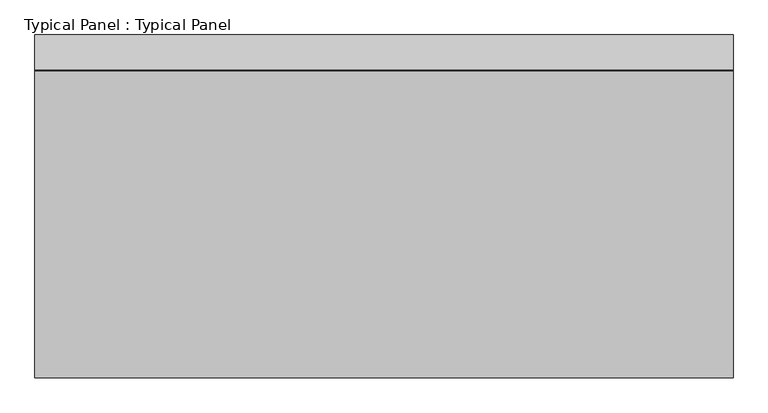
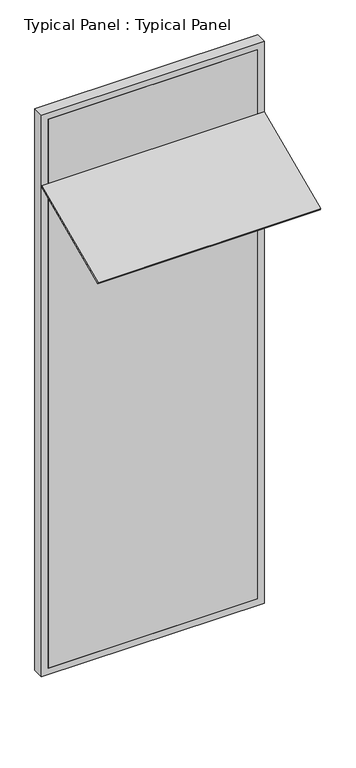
"""IFC4 building model written with IfcOpenShell, lengths in millimetres: plate geometry, Typical Panel : Typical Panel."""

import ifcopenshell
import ifcopenshell.guid

model = None  # the IFC model being written
_history = None  # IfcOwnerHistory: only IFC2X3 demands one
_inside = {}  # id of a spatial element -> (the spatial element, [elements in it])
_under = {}  # id of a project, library or spatial element -> (it, [spatial elements below it])
_declared = {}  # id of a project -> (the project, [libraries it declares])
_typed = {}  # id of a type object -> (the type object, [elements of that type])
_made_of = {}  # id of a material, layer set ... -> (it, [elements and type objects made of it])


def new_model(schema):
    """Start an empty IFC model of exactly this schema.

    Asked for "IFC4X3", IfcOpenShell would pick the latest addendum, in which some entities
    have other attributes; the version numbers below select the first issue.
    IFC2X3 requires an IfcOwnerHistory on every rooted entity: one is made here for all.
    """
    global model, _history
    if schema == "IFC4X3":
        model = ifcopenshell.file(schema_version=(4, 3, 0, 0))
    else:
        model = ifcopenshell.file(schema=schema)
    _inside.clear()
    _under.clear()
    _declared.clear()
    _typed.clear()
    _made_of.clear()
    _history = None
    if model.schema == "IFC2X3":
        org = make("IfcOrganization", Name="unknown")
        user = make(
            "IfcPersonAndOrganization",
            ThePerson=make("IfcPerson", FamilyName="unknown"),
            TheOrganization=org,
        )
        app = make(
            "IfcApplication",
            ApplicationDeveloper=org,
            Version="unknown",
            ApplicationFullName="unknown",
            ApplicationIdentifier="unknown",
        )
        _history = make(
            "IfcOwnerHistory",
            OwningUser=user,
            OwningApplication=app,
            ChangeAction="ADDED",
            CreationDate=0,
        )
    return model


def make(cls, **values):
    """One entity of the class cls with the attributes given. An attribute that is None is left unset."""
    return model.create_entity(
        cls, **{name: value for name, value in values.items() if value is not None}
    )


def rooted(cls, **values):
    """An entity with a GlobalId (a new one), such as an element, a storey or a relation."""
    return make(cls, GlobalId=ifcopenshell.guid.new(), OwnerHistory=_history, **values)


def si_unit(unit_type, name, prefix=None):
    """IfcSIUnit, for example si_unit("LENGTHUNIT", "METRE", prefix="MILLI")."""
    return make("IfcSIUnit", UnitType=unit_type, Prefix=prefix, Name=name)


def assignment(units):
    """IfcUnitAssignment: the units of a project."""
    return None if units is None else make("IfcUnitAssignment", Units=units)


def point(xyz):
    """IfcCartesianPoint."""
    return None if xyz is None else make("IfcCartesianPoint", Coordinates=xyz)


def direction(xyz):
    """IfcDirection."""
    return None if xyz is None else make("IfcDirection", DirectionRatios=xyz)


def frame(location, z_axis=None, x_axis=None):
    """IfcAxis2Placement3D, a coordinate frame: its origin and axes. An axis left out is left unset."""
    return make(
        "IfcAxis2Placement3D",
        Location=point(location),
        Axis=direction(z_axis),
        RefDirection=direction(x_axis),
    )


def origin():
    """The frame at (0, 0, 0) with its axes left unset."""
    return frame((0.0, 0.0, 0.0))


def place(relative_to, where):
    """IfcLocalPlacement: puts the frame where relative to a parent placement (None: the world)."""
    return make(
        "IfcLocalPlacement", PlacementRelTo=relative_to, RelativePlacement=where
    )


def context(
    kind, dimensions, precision=None, world=None, true_north=None, identifier=None
):
    """IfcGeometricRepresentationContext, for example the 3D "Model" context."""
    return make(
        "IfcGeometricRepresentationContext",
        ContextIdentifier=identifier,
        ContextType=kind,
        CoordinateSpaceDimension=dimensions,
        Precision=precision,
        WorldCoordinateSystem=world,
        TrueNorth=true_north,
    )


def project(units=None, contexts=None):
    """IfcProject with its units and contexts."""
    return rooted(
        "IfcProject",
        Name="project",
        RepresentationContexts=contexts,
        UnitsInContext=assignment(units),
    )


def spatial(cls, under=None, at=None, **own):
    """A site, building, storey or space (cls), placed at a placement, below another one or the project."""
    s = rooted(cls, ObjectPlacement=at, **own)
    if under is not None:
        _under.setdefault(under.id(), (under, []))[1].append(s)
    return s


def polyline(points):
    """IfcPolyline through the points."""
    return make("IfcPolyline", Points=[point(p) for p in points])


def outline(outer, holes=None, kind="AREA"):
    """IfcArbitraryClosedProfileDef: a profile drawn as a closed curve; with holes, ...WithVoids."""
    if holes is None:
        return make("IfcArbitraryClosedProfileDef", ProfileType=kind, OuterCurve=outer)
    return make(
        "IfcArbitraryProfileDefWithVoids",
        ProfileType=kind,
        OuterCurve=outer,
        InnerCurves=holes,
    )


def extrude(swept, where, along, depth):
    """IfcExtrudedAreaSolid: the profile swept, set in the frame where, extruded along a direction by depth."""
    return make(
        "IfcExtrudedAreaSolid",
        SweptArea=swept,
        Position=where,
        ExtrudedDirection=direction(along),
        Depth=depth,
    )


def shape(context_of_items, identifier, shape_type, items):
    """IfcShapeRepresentation: the items that make up one representation, for example the "Body"."""
    return make(
        "IfcShapeRepresentation",
        ContextOfItems=context_of_items,
        RepresentationIdentifier=identifier,
        RepresentationType=shape_type,
        Items=items,
    )


def source(mapping_origin, context_of_items, identifier, shape_type, items):
    """IfcRepresentationMap: a shape defined once, which mapped items show again and again."""
    return make(
        "IfcRepresentationMap",
        MappingOrigin=mapping_origin,
        MappedRepresentation=shape(context_of_items, identifier, shape_type, items),
    )


def transform(
    local_origin,
    x_axis=None,
    y_axis=None,
    z_axis=None,
    scale=None,
    scale2=None,
    scale3=None,
    uniform=True,
):
    """IfcCartesianTransformationOperator3D, or its non-uniform kind. x_axis, y_axis, z_axis: its Axis1, 2, 3."""
    if uniform:
        return make(
            "IfcCartesianTransformationOperator3D",
            Axis1=direction(x_axis),
            Axis2=direction(y_axis),
            LocalOrigin=point(local_origin),
            Scale=scale,
            Axis3=direction(z_axis),
        )
    return make(
        "IfcCartesianTransformationOperator3DnonUniform",
        Axis1=direction(x_axis),
        Axis2=direction(y_axis),
        LocalOrigin=point(local_origin),
        Scale=scale,
        Axis3=direction(z_axis),
        Scale2=scale2,
        Scale3=scale3,
    )


def mapped(mapping_source, mapping_target):
    """IfcMappedItem: shows the shape of a source again, moved by a transform."""
    return make(
        "IfcMappedItem", MappingSource=mapping_source, MappingTarget=mapping_target
    )


def made_of(thing, what):
    """Note that an element or type object is made of a material, layer set ...; save() writes the relation."""
    if what is not None:
        _made_of.setdefault(what.id(), (what, []))[1].append(thing)
    return thing


def element(
    cls,
    number,
    at=None,
    inside=None,
    cuts=None,
    type_object=None,
    material=None,
    context=None,
    identifier="Body",
    shape_type=None,
    held_by="IfcProductDefinitionShape",
    body=None,
    shapes=None,
    **own,
):
    """One element of the class cls, such as IfcWall. Its Tag is "e" and its number.

    at: its placement. inside: the storey or other place that contains it. cuts: it is an
    opening in that element (IfcRelVoidsElement). A single representation is given by context,
    identifier, shape_type and body (its items); several are given by shapes. held_by: the class
    of the entity that holds the representations. save() writes the other relations.
    """
    e = rooted(cls, Tag="e%d" % number, ObjectPlacement=at, **own)
    if body is not None:
        shapes = [shape(context, identifier, shape_type, body)]
    if shapes is not None:
        e.Representation = make(held_by, Representations=shapes)
    if inside is not None:
        _inside.setdefault(inside.id(), (inside, []))[1].append(e)
    if cuts is not None:
        rooted(
            "IfcRelVoidsElement", RelatingBuildingElement=cuts, RelatedOpeningElement=e
        )
    if type_object is not None:
        _typed.setdefault(type_object.id(), (type_object, []))[1].append(e)
    return made_of(e, material)


def aggregate(whole, parts):
    """IfcRelAggregates: a whole, such as a stair, and the parts it consists of."""
    return rooted("IfcRelAggregates", RelatingObject=whole, RelatedObjects=parts)


def save(model, path):
    """Write the relations noted so far, then the file.

    IfcRelAggregates (storeys below a building ...), IfcRelContainedInSpatialStructure (elements
    in a storey), IfcRelDefinesByType, IfcRelAssociatesMaterial and IfcRelDeclares: one each for
    every whole, place, type object, material and project.
    """
    for whole, parts in _under.values():
        aggregate(whole, parts)
    for where, things in _inside.values():
        rooted(
            "IfcRelContainedInSpatialStructure",
            RelatedElements=things,
            RelatingStructure=where,
        )
    for kind, things in _typed.values():
        rooted("IfcRelDefinesByType", RelatedObjects=things, RelatingType=kind)
    for what, things in _made_of.values():
        rooted("IfcRelAssociatesMaterial", RelatedObjects=things, RelatingMaterial=what)
    for by, libraries in _declared.values():
        rooted("IfcRelDeclares", RelatingContext=by, RelatedDefinitions=libraries)
    model.write(path)


def typical_panel_typical_panel_636d6651(model_context):
    return source(origin(), model_context, "Body", "SweptSolid", [
        extrude(outline(polyline([(0.0, -720.0), (0.0, 0.0), (1500.0, 0.0), (1500.0, -720.0), (0.0, -720.0)])), frame((750.0, -658.6853631, 3198.0141624), z_axis=(0.0, -0.4067366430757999, 0.9135454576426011), x_axis=(-1.0, 0.0, 0.0)), (0.0, 0.0, 1.0), 10.0),
        extrude(outline(polyline([(0.0, -750.0), (0.0, 750.0), (4000.0, 750.0), (4000.0, -750.0), (0.0, -750.0)]), holes=[polyline([(45.0, 705.0), (45.0, -705.0), (3955.0, -705.0), (3955.0, 705.0), (45.0, 705.0)])]), frame((0.0, -1.5797986, 0.0), z_axis=(0.0, 1.0, 0.0), x_axis=(0.0, 0.0, 1.0)), (0.0, 0.0, 1.0), 75.0),
        extrude(outline(polyline([(705.0, -1.5797986), (-705.0, -1.5797986), (-705.0, 13.4202014), (705.0, 13.4202014), (705.0, -1.5797986)])), frame((0.0, 0.0, 45.0), z_axis=(0.0, 0.0, 1.0), x_axis=(1.0, 0.0, 0.0)), (0.0, 0.0, 1.0), 3910.0),
    ])


if __name__ == "__main__":
    model = new_model("IFC4")
    model_context = context("Model", 3, world=origin())
    ifc_project = project(units=[si_unit("LENGTHUNIT", "METRE", prefix="MILLI")], contexts=[model_context])
    site = spatial("IfcSite", under=ifc_project)
    building = spatial("IfcBuilding", under=site)
    placement = place(None, origin())
    typical_panel_typical_panel_shape = typical_panel_typical_panel_636d6651(model_context)
    element("IfcPlate", 1, ObjectType="Typical Panel : Typical Panel", at=placement, inside=building, context=model_context, shape_type="MappedRepresentation", body=[
        mapped(typical_panel_typical_panel_shape, transform((0.0, 0.0, 0.0), x_axis=(1.0, 0.0, 0.0), y_axis=(0.0, 1.0, 0.0), z_axis=(0.0, 0.0, 1.0))),
    ])
    save(model, "model.ifc")
